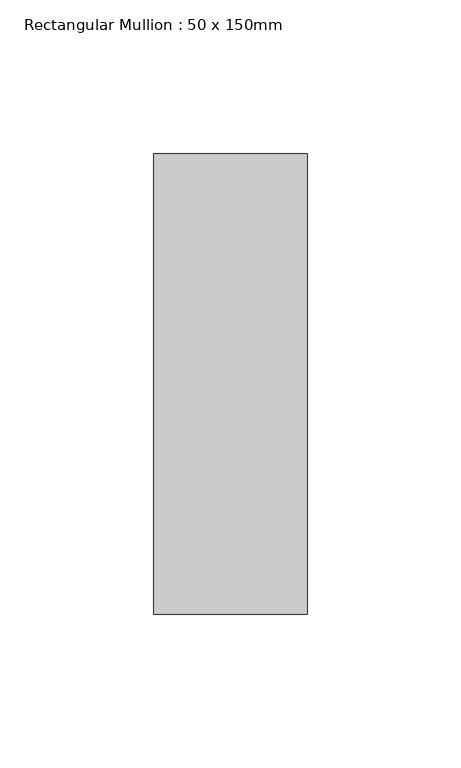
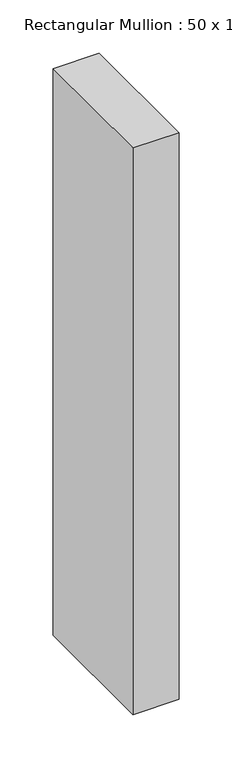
"""IFC4 building model written with IfcOpenShell, lengths in millimetres: member geometry, Rectangular Mullion : 50 x 150mm."""

from ifc_helpers import new_model, si_unit, frame, origin, place, context, project, spatial, polyline, outline, extrude, source, transform, mapped, element, save


def rectangular_mullion_50_x_150mm_9b8962c0(model_context):
    return source(origin(), model_context, "Body", "SweptSolid", [
        extrude(outline(polyline([(0.0, 75.0), (0.0, -75.0), (-50.0, -75.0), (-50.0, 75.0), (0.0, 75.0)])), frame((0.0, 0.0, -650.0), z_axis=(0.0, 0.0, 1.0), x_axis=(1.0, 0.0, 0.0)), (0.0, 0.0, 1.0), 650.0),
    ])


if __name__ == "__main__":
    model = new_model("IFC4")
    model_context = context("Model", 3, world=origin())
    ifc_project = project(units=[si_unit("LENGTHUNIT", "METRE", prefix="MILLI")], contexts=[model_context])
    site = spatial("IfcSite", under=ifc_project)
    building = spatial("IfcBuilding", under=site)
    placement = place(None, origin())
    rectangular_mullion_50_x_150mm_shape = rectangular_mullion_50_x_150mm_9b8962c0(model_context)
    element("IfcMember", 1, ObjectType="Rectangular Mullion : 50 x 150mm", at=placement, inside=building, context=model_context, shape_type="MappedRepresentation", body=[
        mapped(rectangular_mullion_50_x_150mm_shape, transform((0.0, 0.0, 0.0), x_axis=(1.0, 0.0, 0.0), y_axis=(0.0, 1.0, 0.0), z_axis=(0.0, 0.0, 1.0))),
    ])
    save(model, "model.ifc")
